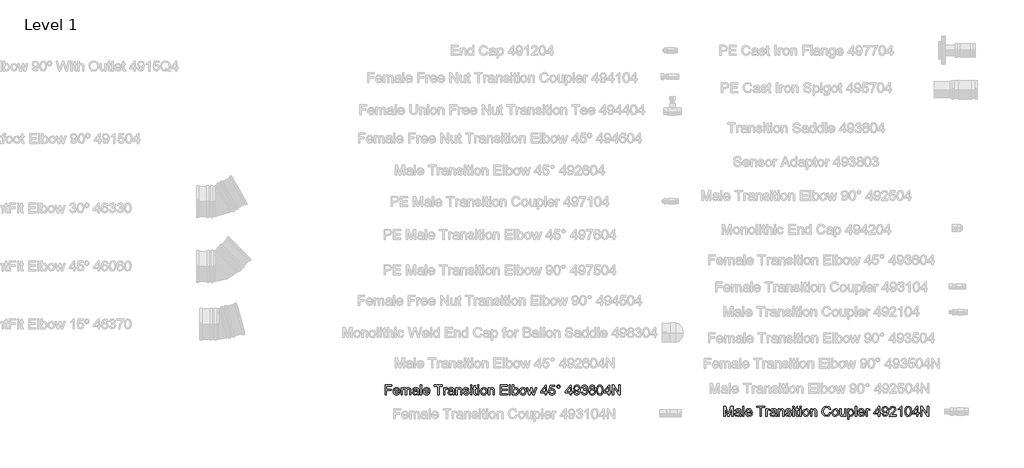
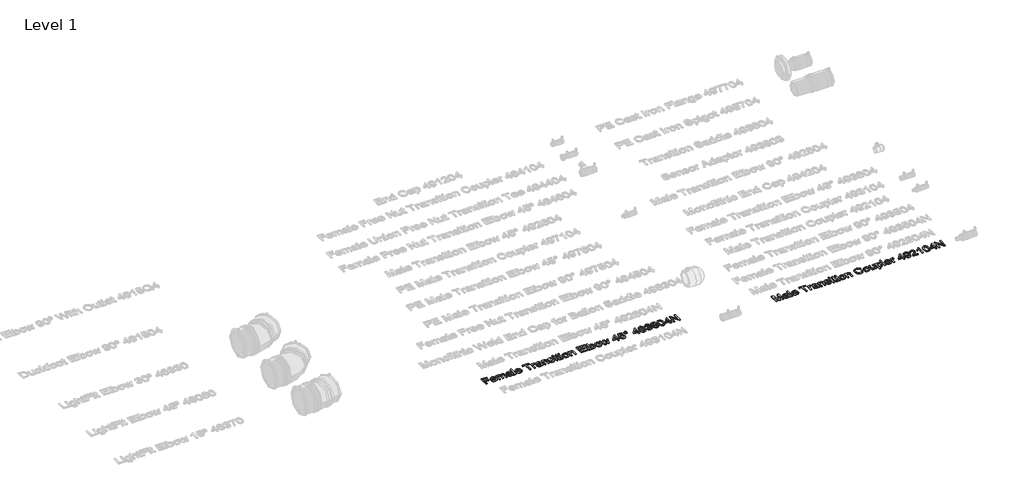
# One storey, part 25 of 41: 2 proxies.
"""IFC4 building model written with IfcOpenShell, lengths in millimetres."""

import ifcopenshell
import ifcopenshell.guid

model = None  # the IFC model being written
_history = None  # IfcOwnerHistory: only IFC2X3 demands one
_inside = {}  # id of a spatial element -> (the spatial element, [elements in it])
_under = {}  # id of a project, library or spatial element -> (it, [spatial elements below it])
_declared = {}  # id of a project -> (the project, [libraries it declares])
_typed = {}  # id of a type object -> (the type object, [elements of that type])
_made_of = {}  # id of a material, layer set ... -> (it, [elements and type objects made of it])


def new_model(schema):
    """Start an empty IFC model of exactly this schema.

    Asked for "IFC4X3", IfcOpenShell would pick the latest addendum, in which some entities
    have other attributes; the version numbers below select the first issue.
    IFC2X3 requires an IfcOwnerHistory on every rooted entity: one is made here for all.
    """
    global model, _history
    if schema == "IFC4X3":
        model = ifcopenshell.file(schema_version=(4, 3, 0, 0))
    else:
        model = ifcopenshell.file(schema=schema)
    _inside.clear()
    _under.clear()
    _declared.clear()
    _typed.clear()
    _made_of.clear()
    _history = None
    if model.schema == "IFC2X3":
        org = make("IfcOrganization", Name="unknown")
        user = make(
            "IfcPersonAndOrganization",
            ThePerson=make("IfcPerson", FamilyName="unknown"),
            TheOrganization=org,
        )
        app = make(
            "IfcApplication",
            ApplicationDeveloper=org,
            Version="unknown",
            ApplicationFullName="unknown",
            ApplicationIdentifier="unknown",
        )
        _history = make(
            "IfcOwnerHistory",
            OwningUser=user,
            OwningApplication=app,
            ChangeAction="ADDED",
            CreationDate=0,
        )
    return model


def make(cls, **values):
    """One entity of the class cls with the attributes given. An attribute that is None is left unset."""
    return model.create_entity(
        cls, **{name: value for name, value in values.items() if value is not None}
    )


def rooted(cls, **values):
    """An entity with a GlobalId (a new one), such as an element, a storey or a relation."""
    return make(cls, GlobalId=ifcopenshell.guid.new(), OwnerHistory=_history, **values)


def si_unit(unit_type, name, prefix=None):
    """IfcSIUnit, for example si_unit("LENGTHUNIT", "METRE", prefix="MILLI")."""
    return make("IfcSIUnit", UnitType=unit_type, Prefix=prefix, Name=name)


def assignment(units):
    """IfcUnitAssignment: the units of a project."""
    return None if units is None else make("IfcUnitAssignment", Units=units)


def point(xyz):
    """IfcCartesianPoint."""
    return None if xyz is None else make("IfcCartesianPoint", Coordinates=xyz)


def direction(xyz):
    """IfcDirection."""
    return None if xyz is None else make("IfcDirection", DirectionRatios=xyz)


def frame(location, z_axis=None, x_axis=None):
    """IfcAxis2Placement3D, a coordinate frame: its origin and axes. An axis left out is left unset."""
    return make(
        "IfcAxis2Placement3D",
        Location=point(location),
        Axis=direction(z_axis),
        RefDirection=direction(x_axis),
    )


def origin():
    """The frame at (0, 0, 0) with its axes left unset."""
    return frame((0.0, 0.0, 0.0))


def origin_with_axes():
    """The frame at (0, 0, 0) with the z axis (0, 0, 1) and the x axis (1, 0, 0) written out."""
    return frame((0.0, 0.0, 0.0), z_axis=(0.0, 0.0, 1.0), x_axis=(1.0, 0.0, 0.0))


def place(relative_to, where):
    """IfcLocalPlacement: puts the frame where relative to a parent placement (None: the world)."""
    return make(
        "IfcLocalPlacement", PlacementRelTo=relative_to, RelativePlacement=where
    )


def context(
    kind, dimensions, precision=None, world=None, true_north=None, identifier=None
):
    """IfcGeometricRepresentationContext, for example the 3D "Model" context."""
    return make(
        "IfcGeometricRepresentationContext",
        ContextIdentifier=identifier,
        ContextType=kind,
        CoordinateSpaceDimension=dimensions,
        Precision=precision,
        WorldCoordinateSystem=world,
        TrueNorth=true_north,
    )


def project(units=None, contexts=None):
    """IfcProject with its units and contexts."""
    return rooted(
        "IfcProject",
        Name="project",
        RepresentationContexts=contexts,
        UnitsInContext=assignment(units),
    )


def spatial(cls, under=None, at=None, **own):
    """A site, building, storey or space (cls), placed at a placement, below another one or the project."""
    s = rooted(cls, ObjectPlacement=at, **own)
    if under is not None:
        _under.setdefault(under.id(), (under, []))[1].append(s)
    return s


def polyline(points):
    """IfcPolyline through the points."""
    return make("IfcPolyline", Points=[point(p) for p in points])


def outline(outer, holes=None, kind="AREA"):
    """IfcArbitraryClosedProfileDef: a profile drawn as a closed curve; with holes, ...WithVoids."""
    if holes is None:
        return make("IfcArbitraryClosedProfileDef", ProfileType=kind, OuterCurve=outer)
    return make(
        "IfcArbitraryProfileDefWithVoids",
        ProfileType=kind,
        OuterCurve=outer,
        InnerCurves=holes,
    )


def extrude(swept, where, along, depth):
    """IfcExtrudedAreaSolid: the profile swept, set in the frame where, extruded along a direction by depth."""
    return make(
        "IfcExtrudedAreaSolid",
        SweptArea=swept,
        Position=where,
        ExtrudedDirection=direction(along),
        Depth=depth,
    )


def shape(context_of_items, identifier, shape_type, items):
    """IfcShapeRepresentation: the items that make up one representation, for example the "Body"."""
    return make(
        "IfcShapeRepresentation",
        ContextOfItems=context_of_items,
        RepresentationIdentifier=identifier,
        RepresentationType=shape_type,
        Items=items,
    )


def made_of(thing, what):
    """Note that an element or type object is made of a material, layer set ...; save() writes the relation."""
    if what is not None:
        _made_of.setdefault(what.id(), (what, []))[1].append(thing)
    return thing


def element(
    cls,
    number,
    at=None,
    inside=None,
    cuts=None,
    type_object=None,
    material=None,
    context=None,
    identifier="Body",
    shape_type=None,
    held_by="IfcProductDefinitionShape",
    body=None,
    shapes=None,
    **own,
):
    """One element of the class cls, such as IfcWall. Its Tag is "e" and its number.

    at: its placement. inside: the storey or other place that contains it. cuts: it is an
    opening in that element (IfcRelVoidsElement). A single representation is given by context,
    identifier, shape_type and body (its items); several are given by shapes. held_by: the class
    of the entity that holds the representations. save() writes the other relations.
    """
    e = rooted(cls, Tag="e%d" % number, ObjectPlacement=at, **own)
    if body is not None:
        shapes = [shape(context, identifier, shape_type, body)]
    if shapes is not None:
        e.Representation = make(held_by, Representations=shapes)
    if inside is not None:
        _inside.setdefault(inside.id(), (inside, []))[1].append(e)
    if cuts is not None:
        rooted(
            "IfcRelVoidsElement", RelatingBuildingElement=cuts, RelatedOpeningElement=e
        )
    if type_object is not None:
        _typed.setdefault(type_object.id(), (type_object, []))[1].append(e)
    return made_of(e, material)


def aggregate(whole, parts):
    """IfcRelAggregates: a whole, such as a stair, and the parts it consists of."""
    return rooted("IfcRelAggregates", RelatingObject=whole, RelatedObjects=parts)


def save(model, path):
    """Write the relations noted so far, then the file.

    IfcRelAggregates (storeys below a building ...), IfcRelContainedInSpatialStructure (elements
    in a storey), IfcRelDefinesByType, IfcRelAssociatesMaterial and IfcRelDeclares: one each for
    every whole, place, type object, material and project.
    """
    for whole, parts in _under.values():
        aggregate(whole, parts)
    for where, things in _inside.values():
        rooted(
            "IfcRelContainedInSpatialStructure",
            RelatedElements=things,
            RelatingStructure=where,
        )
    for kind, things in _typed.values():
        rooted("IfcRelDefinesByType", RelatedObjects=things, RelatingType=kind)
    for what, things in _made_of.values():
        rooted("IfcRelAssociatesMaterial", RelatedObjects=things, RelatingMaterial=what)
    for by, libraries in _declared.values():
        rooted("IfcRelDeclares", RelatingContext=by, RelatedDefinitions=libraries)
    model.write(path)


model = new_model("IFC4")

# Units and contexts
model_context = context("Model", 3, world=origin())
ifc_project = project(units=[si_unit("LENGTHUNIT", "METRE", prefix="MILLI")], contexts=[model_context])

# Site, building, storey
site = spatial("IfcSite", under=ifc_project)
building = spatial("IfcBuilding", under=site)
storey = spatial("IfcBuildingStorey", under=building, Name="Level 1", Elevation=0.0)

# Proxies
placement = place(None, origin())
element("IfcBuildingElementProxy", 1, Name="100 mm Arial", ObjectType="100 mm Arial", at=placement, inside=storey, context=model_context, shape_type="SweptSolid", body=[
    extrude(outline(polyline([(15637.9136045, 3074.7258229), (15637.9136045, 3133.802746), (15677.6059122, 3133.802746), (15677.6059122, 3126.4181306), (15645.2982199, 3126.4181306), (15645.2982199, 3108.879669), (15672.9905276, 3108.879669), (15672.9905276, 3101.4950536), (15645.2982199, 3101.4950536), (15645.2982199, 3074.7258229), (15637.9136045, 3074.7258229)])), origin_with_axes(), (0.0, 0.0, 1.0), 5.0),
    extrude(outline(polyline([(15717.2116814, 3087.6488998), (15724.4520661, 3086.7258229), (15717.6804314, 3077.192169), (15705.0674507, 3073.802746), (15696.4027872, 3075.2648854), (15689.7357199, 3079.6513036), (15685.484518, 3086.677145), (15684.0674507, 3096.0575536), (15685.4989411, 3105.7534671), (15689.7934122, 3113.004669), (15696.3703353, 3117.5263036), (15704.6491814, 3119.0335152), (15712.6702151, 3117.5299094), (15719.0794699, 3113.0190921), (15723.2819939, 3105.7823133), (15724.6828353, 3096.1008229), (15724.6395661, 3094.1104383), (15691.4520661, 3094.1104383), (15695.6996622, 3084.5190921), (15705.2116814, 3081.1873613), (15712.4520661, 3082.7306306), (15717.2116814, 3087.6488998)]), holes=[polyline([(15691.4520661, 3101.4950536), (15717.2982199, 3101.4950536), (15714.3414891, 3108.1873613), (15704.6203353, 3111.6488998), (15695.5265853, 3108.8868806), (15691.4520661, 3101.4950536)])]), origin_with_axes(), (0.0, 0.0, 1.0), 5.0),
    extrude(outline(polyline([(15732.0674507, 3074.7258229), (15732.0674507, 3118.1104383), (15739.4520661, 3118.1104383), (15739.4520661, 3110.9710152), (15744.5289891, 3116.8195729), (15751.7549507, 3119.0335152), (15759.1539891, 3116.7763036), (15763.2212968, 3110.4517844), (15768.9833161, 3116.8880825), (15776.2597584, 3119.0335152), (15785.9160084, 3115.4638036), (15789.2982199, 3104.4662075), (15789.2982199, 3074.7258229), (15781.9136045, 3074.7258229), (15781.9136045, 3101.2931306), (15781.2285084, 3107.458996), (15778.7477391, 3110.4950536), (15774.5289891, 3111.6488998), (15767.2669699, 3108.692169), (15764.375143, 3099.2162075), (15764.375143, 3074.7258229), (15756.9905276, 3074.7258229), (15756.9905276, 3102.115246), (15755.281393, 3109.2690921), (15749.6780276, 3111.6488998), (15744.2116814, 3110.0623613), (15740.5770661, 3105.4181306), (15739.4520661, 3096.6056306), (15739.4520661, 3074.7258229), (15732.0674507, 3074.7258229)])), origin_with_axes(), (0.0, 0.0, 1.0), 5.0),
    extrude(outline(polyline([(15828.0674507, 3080.2642844), (15820.906393, 3075.2594767), (15812.9953353, 3073.802746), (15802.2717776, 3077.3075536), (15798.5289891, 3086.2642844), (15799.9424507, 3092.1056306), (15803.656393, 3096.3460152), (15808.8270661, 3098.7690921), (15815.2164891, 3099.879669), (15828.0241814, 3102.4181306), (15828.0674507, 3104.0623613), (15826.0337968, 3109.5142844), (15817.8703353, 3111.6488998), (15810.3991814, 3110.2282267), (15806.8366814, 3105.1873613), (15799.4520661, 3106.1104383), (15802.6467776, 3113.3219767), (15809.0794699, 3117.5479383), (15818.8222584, 3119.0335152), (15827.7717776, 3117.7210152), (15832.8270661, 3114.4253421), (15835.0914891, 3109.4133229), (15835.4520661, 3102.9517844), (15835.4520661, 3093.7642844), (15835.8270661, 3080.9349575), (15837.2982199, 3074.7258229), (15829.9136045, 3074.7258229), (15828.0674507, 3080.2642844)]), holes=[polyline([(15828.0674507, 3095.0335152), (15816.1539891, 3092.7690921), (15809.8006237, 3091.5719767), (15806.9232199, 3089.6248613), (15805.9136045, 3086.7835152), (15808.1131237, 3082.7883229), (15814.5674507, 3081.1873613), (15822.0386045, 3082.9541883), (15826.8559122, 3087.2306306), (15828.0241814, 3092.942169), (15828.0674507, 3095.0335152)])]), origin_with_axes(), (0.0, 0.0, 1.0), 5.0),
    extrude(outline(polyline([(15845.6059122, 3074.7258229), (15845.6059122, 3133.802746), (15852.9905276, 3133.802746), (15852.9905276, 3074.7258229), (15845.6059122, 3074.7258229)])), origin_with_axes(), (0.0, 0.0, 1.0), 5.0),
    extrude(outline(polyline([(15894.4424507, 3087.6488998), (15901.6828353, 3086.7258229), (15894.9112007, 3077.192169), (15882.2982199, 3073.802746), (15873.6335564, 3075.2648854), (15866.9664891, 3079.6513036), (15862.7152872, 3086.677145), (15861.2982199, 3096.0575536), (15862.7297103, 3105.7534671), (15867.0241814, 3113.004669), (15873.6011045, 3117.5263036), (15881.8799507, 3119.0335152), (15889.9009843, 3117.5299094), (15896.3102391, 3113.0190921), (15900.5127632, 3105.7823133), (15901.9136045, 3096.1008229), (15901.8703353, 3094.1104383), (15868.6828353, 3094.1104383), (15872.9304314, 3084.5190921), (15882.4424507, 3081.1873613), (15889.6828353, 3082.7306306), (15894.4424507, 3087.6488998)]), holes=[polyline([(15868.6828353, 3101.4950536), (15894.5289891, 3101.4950536), (15891.5722584, 3108.1873613), (15881.8511045, 3111.6488998), (15872.7573545, 3108.8868806), (15868.6828353, 3101.4950536)])]), origin_with_axes(), (0.0, 0.0, 1.0), 5.0),
    extrude(outline(polyline([(15948.0674507, 3074.7258229), (15948.0674507, 3126.4181306), (15928.6828353, 3126.4181306), (15928.6828353, 3133.802746), (15974.8366814, 3133.802746), (15974.8366814, 3126.4181306), (15955.4520661, 3126.4181306), (15955.4520661, 3074.7258229), (15948.0674507, 3074.7258229)])), origin_with_axes(), (0.0, 0.0, 1.0), 5.0),
    extrude(outline(polyline([(15982.2212968, 3074.7258229), (15982.2212968, 3118.1104383), (15988.6828353, 3118.1104383), (15988.6828353, 3111.692169), (15993.2693737, 3117.6056306), (15997.8847584, 3119.0335152), (16005.2982199, 3116.754669), (16002.8318737, 3110.1344767), (15997.6395661, 3111.6488998), (15993.4640853, 3110.192169), (15990.8030276, 3106.1537075), (15989.6059122, 3097.5287075), (15989.6059122, 3074.7258229), (15982.2212968, 3074.7258229)])), origin_with_axes(), (0.0, 0.0, 1.0), 5.0),
    extrude(outline(polyline([(16037.6059122, 3080.2642844), (16030.4448545, 3075.2594767), (16022.5337968, 3073.802746), (16011.8102391, 3077.3075536), (16008.0674507, 3086.2642844), (16009.4809122, 3092.1056306), (16013.1948545, 3096.3460152), (16018.3655276, 3098.7690921), (16024.7549507, 3099.879669), (16037.562643, 3102.4181306), (16037.6059122, 3104.0623613), (16035.5722584, 3109.5142844), (16027.4087968, 3111.6488998), (16019.937643, 3110.2282267), (16016.375143, 3105.1873613), (16008.9905276, 3106.1104383), (16012.1852391, 3113.3219767), (16018.6179314, 3117.5479383), (16028.3607199, 3119.0335152), (16037.3102391, 3117.7210152), (16042.3655276, 3114.4253421), (16044.6299507, 3109.4133229), (16044.9905276, 3102.9517844), (16044.9905276, 3093.7642844), (16045.3655276, 3080.9349575), (16046.8366814, 3074.7258229), (16039.4520661, 3074.7258229), (16037.6059122, 3080.2642844)]), holes=[polyline([(16037.6059122, 3095.0335152), (16025.6924507, 3092.7690921), (16019.3390853, 3091.5719767), (16016.4616814, 3089.6248613), (16015.4520661, 3086.7835152), (16017.6515853, 3082.7883229), (16024.1059122, 3081.1873613), (16031.5770661, 3082.9541883), (16036.3943737, 3087.2306306), (16037.562643, 3092.942169), (16037.6059122, 3095.0335152)])]), origin_with_axes(), (0.0, 0.0, 1.0), 5.0),
    extrude(outline(polyline([(16055.1443737, 3074.7258229), (16055.1443737, 3118.1104383), (16062.5289891, 3118.1104383), (16062.5289891, 3112.052746), (16068.1756237, 3117.2883229), (16075.8847584, 3119.0335152), (16082.8583161, 3117.6272652), (16087.6179314, 3113.9349575), (16089.8318737, 3108.504669), (16090.2212968, 3101.365246), (16090.2212968, 3074.7258229), (16082.8366814, 3074.7258229), (16082.8366814, 3100.3700536), (16081.9857199, 3106.9037075), (16078.9785084, 3110.3580344), (16073.9087968, 3111.6488998), (16065.8967776, 3108.7498613), (16062.5289891, 3097.7450536), (16062.5289891, 3074.7258229), (16055.1443737, 3074.7258229)])), origin_with_axes(), (0.0, 0.0, 1.0), 5.0),
    extrude(outline(polyline([(16097.6059122, 3087.6488998), (16104.9905276, 3088.5719767), (16108.4087968, 3083.0912075), (16116.2405276, 3081.1873613), (16123.7693737, 3082.9325536), (16126.2212968, 3087.0287075), (16123.7549507, 3090.3460152), (16116.1539891, 3092.4517844), (16105.0337968, 3096.0647652), (16100.1804314, 3100.2835152), (16098.5289891, 3106.240246), (16099.8559122, 3111.7426498), (16103.4761045, 3115.9469767), (16108.1708161, 3118.1320729), (16114.5241814, 3119.0335152), (16123.5097584, 3117.583996), (16129.2212968, 3113.660919), (16131.7597584, 3107.0335152), (16124.375143, 3106.1104383), (16121.5987007, 3110.1849575), (16115.1011045, 3111.6488998), (16108.0337968, 3110.2498613), (16105.9136045, 3106.990246), (16106.7934122, 3104.8412075), (16109.5482199, 3103.2113998), (16115.9087968, 3101.6392844), (16126.7477391, 3098.1633229), (16131.781393, 3094.2258229), (16133.6059122, 3087.8075536), (16131.4640853, 3080.740246), (16125.2837968, 3075.6128421), (16116.1395661, 3073.802746), (16103.2597584, 3077.2931306), (16097.6059122, 3087.6488998)])), origin_with_axes(), (0.0, 0.0, 1.0), 5.0),
    extrude(outline(polyline([(16141.9136045, 3074.7258229), (16141.9136045, 3118.1104383), (16149.2982199, 3118.1104383), (16149.2982199, 3074.7258229), (16141.9136045, 3074.7258229)])), origin_with_axes(), (0.0, 0.0, 1.0), 5.0),
    extrude(outline(polyline([(16141.9136045, 3126.4181306), (16141.9136045, 3133.802746), (16149.2982199, 3133.802746), (16149.2982199, 3126.4181306), (16141.9136045, 3126.4181306)])), origin_with_axes(), (0.0, 0.0, 1.0), 5.0),
    extrude(outline(polyline([(16176.0674507, 3080.8844767), (16176.9905276, 3074.5094767), (16171.4664891, 3073.802746), (16165.2789891, 3075.0287075), (16162.1924507, 3078.2450536), (16161.2982199, 3086.6248613), (16161.2982199, 3110.7258229), (16155.7597584, 3110.7258229), (16155.7597584, 3118.1104383), (16161.2982199, 3118.1104383), (16161.2982199, 3128.6537075), (16168.6828353, 3132.9950536), (16168.6828353, 3118.1104383), (16176.0674507, 3118.1104383), (16176.0674507, 3110.7258229), (16168.6828353, 3110.7258229), (16168.6828353, 3086.8412075), (16169.0722584, 3083.0335152), (16170.3342776, 3081.6849575), (16172.8511045, 3081.1873613), (16176.0674507, 3080.8844767)])), origin_with_axes(), (0.0, 0.0, 1.0), 5.0),
    extrude(outline(polyline([(16183.4520661, 3074.7258229), (16183.4520661, 3118.1104383), (16190.8366814, 3118.1104383), (16190.8366814, 3074.7258229), (16183.4520661, 3074.7258229)])), origin_with_axes(), (0.0, 0.0, 1.0), 5.0),
    extrude(outline(polyline([(16183.4520661, 3126.4181306), (16183.4520661, 3133.802746), (16190.8366814, 3133.802746), (16190.8366814, 3126.4181306), (16183.4520661, 3126.4181306)])), origin_with_axes(), (0.0, 0.0, 1.0), 5.0),
    extrude(outline(polyline([(16200.0674507, 3096.4181306), (16201.6648064, 3106.8784671), (16206.4568737, 3114.2306306), (16219.4664891, 3119.0335152), (16227.2243016, 3117.5713758), (16233.4208161, 3113.1849575), (16237.4827151, 3106.2204142), (16238.8366814, 3097.0238998), (16236.4424507, 3083.8844767), (16229.468893, 3076.4493806), (16219.4664891, 3073.802746), (16211.6149266, 3075.2594767), (16205.4256237, 3079.629669), (16201.4069939, 3086.740246), (16200.0674507, 3096.4181306)]), holes=[polyline([(16207.4520661, 3096.4325536), (16210.8703353, 3084.9878421), (16219.4664891, 3081.1873613), (16228.0337968, 3085.0094767), (16231.4520661, 3096.6633229), (16228.0121622, 3107.848419), (16219.4664891, 3111.6488998), (16210.8703353, 3107.8628421), (16207.4520661, 3096.4325536)])]), origin_with_axes(), (0.0, 0.0, 1.0), 5.0),
    extrude(outline(polyline([(16247.1443737, 3074.7258229), (16247.1443737, 3118.1104383), (16254.5289891, 3118.1104383), (16254.5289891, 3112.052746), (16260.1756237, 3117.2883229), (16267.8847584, 3119.0335152), (16274.8583161, 3117.6272652), (16279.6179314, 3113.9349575), (16281.8318737, 3108.504669), (16282.2212968, 3101.365246), (16282.2212968, 3074.7258229), (16274.8366814, 3074.7258229), (16274.8366814, 3100.3700536), (16273.9857199, 3106.9037075), (16270.9785084, 3110.3580344), (16265.9087968, 3111.6488998), (16257.8967776, 3108.7498613), (16254.5289891, 3097.7450536), (16254.5289891, 3074.7258229), (16247.1443737, 3074.7258229)])), origin_with_axes(), (0.0, 0.0, 1.0), 5.0),
    extrude(outline(polyline([(16316.375143, 3074.7258229), (16316.375143, 3133.802746), (16358.8366814, 3133.802746), (16358.8366814, 3126.4181306), (16323.7597584, 3126.4181306), (16323.7597584, 3108.879669), (16356.9905276, 3108.879669), (16356.9905276, 3101.4950536), (16323.7597584, 3101.4950536), (16323.7597584, 3082.1104383), (16359.7597584, 3082.1104383), (16359.7597584, 3074.7258229), (16316.375143, 3074.7258229)])), origin_with_axes(), (0.0, 0.0, 1.0), 5.0),
    extrude(outline(polyline([(16369.9136045, 3074.7258229), (16369.9136045, 3133.802746), (16377.2982199, 3133.802746), (16377.2982199, 3074.7258229), (16369.9136045, 3074.7258229)])), origin_with_axes(), (0.0, 0.0, 1.0), 5.0),
    extrude(outline(polyline([(16395.7597584, 3074.7258229), (16388.375143, 3074.7258229), (16388.375143, 3133.802746), (16395.7597584, 3133.802746), (16395.7597584, 3111.8940921), (16400.9304314, 3117.2486594), (16407.3559122, 3119.0335152), (16414.7549507, 3117.4253421), (16420.4953353, 3112.9037075), (16424.0217776, 3105.8724575), (16425.2982199, 3097.067169), (16423.9767055, 3087.208996), (16420.0121622, 3079.8748613), (16414.1942536, 3075.3207748), (16407.312643, 3073.802746), (16400.7465372, 3075.7606786), (16395.7597584, 3081.6344767), (16395.7597584, 3074.7258229)]), holes=[polyline([(16395.7597584, 3096.7210152), (16397.7789891, 3086.3940921), (16406.6780276, 3081.1873613), (16414.5818737, 3085.0238998), (16417.9136045, 3096.4613998), (16414.718893, 3107.942169), (16406.9953353, 3111.6488998), (16399.0914891, 3107.8123613), (16395.7597584, 3096.7210152)])]), origin_with_axes(), (0.0, 0.0, 1.0), 5.0),
    extrude(outline(polyline([(16431.7597584, 3096.4181306), (16433.3571141, 3106.8784671), (16438.1491814, 3114.2306306), (16451.1587968, 3119.0335152), (16458.9166093, 3117.5713758), (16465.1131237, 3113.1849575), (16469.1750228, 3106.2204142), (16470.5289891, 3097.0238998), (16468.1347584, 3083.8844767), (16461.1612007, 3076.4493806), (16451.1587968, 3073.802746), (16443.3072343, 3075.2594767), (16437.1179314, 3079.629669), (16433.0993016, 3086.740246), (16431.7597584, 3096.4181306)]), holes=[polyline([(16439.1443737, 3096.4325536), (16442.562643, 3084.9878421), (16451.1587968, 3081.1873613), (16459.7261045, 3085.0094767), (16463.1443737, 3096.6633229), (16459.7044699, 3107.848419), (16451.1587968, 3111.6488998), (16442.562643, 3107.8628421), (16439.1443737, 3096.4325536)])]), origin_with_axes(), (0.0, 0.0, 1.0), 5.0),
    extrude(outline(polyline([(16486.0337968, 3074.7258229), (16472.8366814, 3118.1104383), (16480.5097584, 3118.1104383), (16487.9953353, 3092.7979383), (16490.2309122, 3083.754669), (16492.062643, 3092.4662075), (16498.0193737, 3118.1104383), (16506.8174507, 3118.1104383), (16512.7453353, 3092.5383229), (16514.375143, 3084.6488998), (16516.7116814, 3092.9710152), (16524.2116814, 3118.1104383), (16531.9136045, 3118.1104383), (16518.6155276, 3074.7258229), (16509.687643, 3074.7258229), (16504.0193737, 3100.1681306), (16502.375143, 3108.1008229), (16495.062643, 3074.7258229), (16486.0337968, 3074.7258229)])), origin_with_axes(), (0.0, 0.0, 1.0), 5.0),
    extrude(outline(polyline([(16582.2212968, 3074.7258229), (16582.2212968, 3088.5719767), (16555.4520661, 3088.5719767), (16555.4520661, 3095.9565921), (16584.0674507, 3132.879669), (16589.6059122, 3132.879669), (16589.6059122, 3095.9565921), (16596.9905276, 3095.9565921), (16596.9905276, 3088.5719767), (16589.6059122, 3088.5719767), (16589.6059122, 3074.7258229), (16582.2212968, 3074.7258229)]), holes=[polyline([(16582.2212968, 3095.9565921), (16582.2212968, 3118.7738998), (16564.5386045, 3095.9565921), (16582.2212968, 3095.9565921)])]), origin_with_axes(), (0.0, 0.0, 1.0), 5.0),
    extrude(outline(polyline([(16603.4520661, 3090.4181306), (16610.8366814, 3091.3412075), (16614.5578353, 3083.7330344), (16622.2741814, 3081.1873613), (16631.5337968, 3084.7282267), (16634.8366814, 3094.1248613), (16631.7429314, 3102.8940921), (16622.3895661, 3106.1104383), (16615.906393, 3104.8267844), (16611.7597584, 3101.4950536), (16604.375143, 3102.4181306), (16610.8366814, 3132.879669), (16639.4520661, 3132.879669), (16639.4520661, 3125.4950536), (16616.8078353, 3125.4950536), (16613.6491814, 3109.2258229), (16624.4520661, 3113.4950536), (16637.0794699, 3108.2017844), (16642.2212968, 3094.5863998), (16637.5914891, 3080.8844767), (16630.9424507, 3075.5731786), (16622.2453353, 3073.802746), (16609.2140853, 3078.3532267), (16603.4520661, 3090.4181306)])), origin_with_axes(), (0.0, 0.0, 1.0), 5.0),
    extrude(outline(polyline([(16650.5289891, 3123.6633229), (16653.781393, 3131.4950536), (16661.5914891, 3134.7258229), (16669.4520661, 3131.4950536), (16672.6828353, 3123.6633229), (16669.4304314, 3115.8243806), (16661.5914891, 3112.5719767), (16653.781393, 3115.802746), (16650.5289891, 3123.6633229)]), holes=[polyline([(16655.1443737, 3123.6488998), (16657.0410084, 3119.0767844), (16661.6203353, 3117.1873613), (16666.1708161, 3119.0767844), (16668.0674507, 3123.6488998), (16666.1708161, 3128.2210152), (16661.6203353, 3130.1104383), (16657.0410084, 3128.2210152), (16655.1443737, 3123.6488998)])]), origin_with_axes(), (0.0, 0.0, 1.0), 5.0),
    extrude(outline(polyline([(16728.9905276, 3074.7258229), (16728.9905276, 3088.5719767), (16702.2212968, 3088.5719767), (16702.2212968, 3095.9565921), (16730.8366814, 3132.879669), (16736.375143, 3132.879669), (16736.375143, 3095.9565921), (16743.7597584, 3095.9565921), (16743.7597584, 3088.5719767), (16736.375143, 3088.5719767), (16736.375143, 3074.7258229), (16728.9905276, 3074.7258229)]), holes=[polyline([(16728.9905276, 3095.9565921), (16728.9905276, 3118.7738998), (16711.3078353, 3095.9565921), (16728.9905276, 3095.9565921)])]), origin_with_axes(), (0.0, 0.0, 1.0), 5.0),
    extrude(outline(polyline([(16751.1443737, 3089.4950536), (16758.5289891, 3090.4181306), (16761.8462968, 3083.3724575), (16768.1347584, 3081.1873613), (16774.1131237, 3082.5936113), (16778.1660084, 3086.3508229), (16780.5818737, 3092.7690921), (16781.6491814, 3101.3363998), (16775.6996622, 3097.1825536), (16767.6011045, 3095.0335152), (16755.2621622, 3100.2835152), (16750.2212968, 3114.115246), (16755.5073545, 3128.3940921), (16768.7549507, 3133.802746), (16779.2765853, 3130.7162075), (16786.5169699, 3121.9181306), (16788.9905276, 3105.3892844), (16786.5241814, 3087.4541883), (16779.1900468, 3077.2931306), (16767.7886045, 3073.802746), (16756.437643, 3077.9205344), (16751.1443737, 3089.4950536)]), holes=[polyline([(16781.6059122, 3114.2883229), (16778.4184122, 3123.1440921), (16769.9520661, 3126.4181306), (16761.0674507, 3122.8916883), (16757.6059122, 3113.754669), (16760.8799507, 3105.5695729), (16769.750143, 3102.4181306), (16778.2669699, 3105.5695729), (16781.6059122, 3114.2883229)])]), origin_with_axes(), (0.0, 0.0, 1.0), 5.0),
    extrude(outline(polyline([(16795.4520661, 3090.4181306), (16802.8366814, 3091.3412075), (16806.9112007, 3083.567169), (16814.5337968, 3081.1873613), (16823.5049507, 3084.4613998), (16826.8366814, 3092.567169), (16823.5337968, 3100.2041883), (16815.1395661, 3103.2258229), (16809.9616814, 3102.4181306), (16810.7837968, 3109.802746), (16820.3462968, 3111.8363998), (16824.0674507, 3118.3556306), (16821.3703353, 3124.1320729), (16814.4184122, 3126.4181306), (16807.3799507, 3124.1104383), (16803.7597584, 3117.1873613), (16796.375143, 3118.1104383), (16802.4184122, 3129.692169), (16814.1587968, 3133.802746), (16823.0650468, 3131.7763036), (16829.2958161, 3126.2378421), (16831.4520661, 3118.7883229), (16829.4039891, 3111.9806306), (16823.3462968, 3107.0912075), (16831.3943737, 3102.0431306), (16834.2212968, 3092.4373613), (16828.5674507, 3079.2258229), (16814.2741814, 3073.802746), (16801.3222584, 3078.4325536), (16795.4520661, 3090.4181306)])), origin_with_axes(), (0.0, 0.0, 1.0), 5.0),
    extrude(outline(polyline([(16878.5289891, 3118.1104383), (16871.1443737, 3117.1873613), (16868.3462968, 3123.3460152), (16860.9472584, 3126.4181306), (16854.2837968, 3124.629669), (16849.2429314, 3117.9157267), (16847.1443737, 3104.754669), (16853.656393, 3110.646496), (16861.7261045, 3112.5719767), (16874.2741814, 3107.3075536), (16879.4520661, 3093.7065921), (16877.0145661, 3083.5166883), (16870.3078353, 3076.3051498), (16860.6299507, 3073.802746), (16852.2519459, 3075.4613998), (16845.5794699, 3080.4373613), (16841.2146862, 3089.2210152), (16839.7597584, 3102.302746), (16841.375143, 3117.0106786), (16846.2212968, 3127.067169), (16852.8378834, 3132.1188517), (16861.4087968, 3133.802746), (16873.0770661, 3129.6344767), (16878.5289891, 3118.1104383)]), holes=[polyline([(16847.1443737, 3093.8219767), (16848.8535084, 3087.4253421), (16853.3967776, 3082.7811113), (16860.0530276, 3081.1873613), (16868.7573545, 3084.490246), (16872.0674507, 3093.4613998), (16868.8006237, 3102.0503421), (16859.750143, 3105.1873613), (16850.8150468, 3102.0503421), (16847.1443737, 3093.8219767)])]), origin_with_axes(), (0.0, 0.0, 1.0), 5.0),
    extrude(outline(polyline([(16885.9136045, 3103.7883229), (16888.0842776, 3120.785919), (16894.531393, 3130.5863998), (16905.2982199, 3133.802746), (16913.9232199, 3131.8988998), (16919.8799507, 3126.410919), (16923.3414891, 3117.6705344), (16924.6828353, 3103.7883229), (16922.5337968, 3086.8628421), (16916.1083161, 3077.0407267), (16905.2982199, 3073.802746), (16897.625143, 3075.208996), (16891.7982199, 3079.427746), (16887.3847584, 3089.4193325), (16885.9136045, 3103.7883229)]), holes=[polyline([(16893.2982199, 3103.802746), (16896.7597584, 3085.4638036), (16905.2982199, 3081.1873613), (16913.8366814, 3085.4782267), (16917.2982199, 3103.802746), (16913.9520661, 3121.9325536), (16905.2116814, 3126.4181306), (16896.875143, 3122.4662075), (16893.2982199, 3103.802746)])]), origin_with_axes(), (0.0, 0.0, 1.0), 5.0),
    extrude(outline(polyline([(16955.1443737, 3074.7258229), (16955.1443737, 3088.5719767), (16928.375143, 3088.5719767), (16928.375143, 3095.9565921), (16956.9905276, 3132.879669), (16962.5289891, 3132.879669), (16962.5289891, 3095.9565921), (16969.9136045, 3095.9565921), (16969.9136045, 3088.5719767), (16962.5289891, 3088.5719767), (16962.5289891, 3074.7258229), (16955.1443737, 3074.7258229)]), holes=[polyline([(16955.1443737, 3095.9565921), (16955.1443737, 3118.7738998), (16937.4616814, 3095.9565921), (16955.1443737, 3095.9565921)])]), origin_with_axes(), (0.0, 0.0, 1.0), 5.0),
    extrude(outline(polyline([(16979.1443737, 3074.7258229), (16979.1443737, 3133.802746), (16987.0482199, 3133.802746), (17017.9136045, 3086.9998613), (17017.9136045, 3133.802746), (17025.2982199, 3133.802746), (17025.2982199, 3074.7258229), (17017.3943737, 3074.7258229), (16986.5289891, 3121.5431306), (16986.5289891, 3074.7258229), (16979.1443737, 3074.7258229)])), origin_with_axes(), (0.0, 0.0, 1.0), 5.0),
])
element("IfcBuildingElementProxy", 2, Name="100 mm Arial", ObjectType="100 mm Arial", at=placement, inside=storey, context=model_context, shape_type="SweptSolid", body=[
    extrude(outline(polyline([(17636.9905276, 2948.8467771), (17636.9905276, 3007.9237001), (17649.6972584, 3007.9237001), (17661.7837968, 2966.2842771), (17664.2212968, 2957.5871617), (17666.8607199, 2967.0054309), (17678.7453353, 3007.9237001), (17691.4520661, 3007.9237001), (17691.4520661, 2948.8467771), (17684.0674507, 2948.8467771), (17684.0674507, 3000.5390848), (17669.2261045, 2948.8467771), (17659.2164891, 2948.8467771), (17644.375143, 3000.5390848), (17644.375143, 2948.8467771), (17636.9905276, 2948.8467771)])), origin_with_axes(), (0.0, 0.0, 1.0), 5.0),
    extrude(outline(polyline([(17731.1443737, 2954.3852386), (17723.9833161, 2949.3804309), (17716.0722584, 2947.9237001), (17705.3487007, 2951.4285078), (17701.6059122, 2960.3852386), (17703.0193737, 2966.2265848), (17706.7333161, 2970.4669694), (17711.9039891, 2972.8900463), (17718.2934122, 2974.0006232), (17731.1011045, 2976.5390848), (17731.1443737, 2978.1833155), (17729.1107199, 2983.6352386), (17720.9472584, 2985.769854), (17713.4761045, 2984.3491809), (17709.9136045, 2979.3083155), (17702.5289891, 2980.2313924), (17705.7237007, 2987.4429309), (17712.156393, 2991.6688924), (17721.8991814, 2993.1544694), (17730.8487007, 2991.8419694), (17735.9039891, 2988.5462963), (17738.1684122, 2983.5342771), (17738.5289891, 2977.0727386), (17738.5289891, 2967.8852386), (17738.9039891, 2955.0559117), (17740.375143, 2948.8467771), (17732.9905276, 2948.8467771), (17731.1443737, 2954.3852386)]), holes=[polyline([(17731.1443737, 2969.1544694), (17719.2309122, 2966.8900463), (17712.8775468, 2965.6929309), (17710.000143, 2963.7458155), (17708.9905276, 2960.9044694), (17711.1900468, 2956.9092771), (17717.6443737, 2955.3083155), (17725.1155276, 2957.0751424), (17729.9328353, 2961.3515848), (17731.1011045, 2967.0631232), (17731.1443737, 2969.1544694)])]), origin_with_axes(), (0.0, 0.0, 1.0), 5.0),
    extrude(outline(polyline([(17748.6828353, 2948.8467771), (17748.6828353, 3007.9237001), (17756.0674507, 3007.9237001), (17756.0674507, 2948.8467771), (17748.6828353, 2948.8467771)])), origin_with_axes(), (0.0, 0.0, 1.0), 5.0),
    extrude(outline(polyline([(17797.5193737, 2961.769854), (17804.7597584, 2960.8467771), (17797.9881237, 2951.3131232), (17785.375143, 2947.9237001), (17776.7104795, 2949.3858396), (17770.0434122, 2953.7722578), (17765.7922103, 2960.7980992), (17764.375143, 2970.1785078), (17765.8066334, 2979.8744213), (17770.1011045, 2987.1256232), (17776.6780276, 2991.6472578), (17784.9568737, 2993.1544694), (17792.9779074, 2991.6508636), (17799.3871622, 2987.1400463), (17803.5896862, 2979.9032674), (17804.9905276, 2970.2217771), (17804.9472584, 2968.2313924), (17771.7597584, 2968.2313924), (17776.0073545, 2958.6400463), (17785.5193737, 2955.3083155), (17792.7597584, 2956.8515848), (17797.5193737, 2961.769854)]), holes=[polyline([(17771.7597584, 2975.6160078), (17797.6059122, 2975.6160078), (17794.6491814, 2982.3083155), (17784.9280276, 2985.769854), (17775.8342776, 2983.0078348), (17771.7597584, 2975.6160078)])]), origin_with_axes(), (0.0, 0.0, 1.0), 5.0),
    extrude(outline(polyline([(17851.1443737, 2948.8467771), (17851.1443737, 3000.5390848), (17831.7597584, 3000.5390848), (17831.7597584, 3007.9237001), (17877.9136045, 3007.9237001), (17877.9136045, 3000.5390848), (17858.5289891, 3000.5390848), (17858.5289891, 2948.8467771), (17851.1443737, 2948.8467771)])), origin_with_axes(), (0.0, 0.0, 1.0), 5.0),
    extrude(outline(polyline([(17885.2982199, 2948.8467771), (17885.2982199, 2992.2313924), (17891.7597584, 2992.2313924), (17891.7597584, 2985.8131232), (17896.3462968, 2991.7265848), (17900.9616814, 2993.1544694), (17908.375143, 2990.8756232), (17905.9087968, 2984.2554309), (17900.7164891, 2985.769854), (17896.5410084, 2984.3131232), (17893.8799507, 2980.2746617), (17892.6828353, 2971.6496617), (17892.6828353, 2948.8467771), (17885.2982199, 2948.8467771)])), origin_with_axes(), (0.0, 0.0, 1.0), 5.0),
    extrude(outline(polyline([(17940.6828353, 2954.3852386), (17933.5217776, 2949.3804309), (17925.6107199, 2947.9237001), (17914.8871622, 2951.4285078), (17911.1443737, 2960.3852386), (17912.5578353, 2966.2265848), (17916.2717776, 2970.4669694), (17921.4424507, 2972.8900463), (17927.8318737, 2974.0006232), (17940.6395661, 2976.5390848), (17940.6828353, 2978.1833155), (17938.6491814, 2983.6352386), (17930.4857199, 2985.769854), (17923.0145661, 2984.3491809), (17919.4520661, 2979.3083155), (17912.0674507, 2980.2313924), (17915.2621622, 2987.4429309), (17921.6948545, 2991.6688924), (17931.437643, 2993.1544694), (17940.3871622, 2991.8419694), (17945.4424507, 2988.5462963), (17947.7068737, 2983.5342771), (17948.0674507, 2977.0727386), (17948.0674507, 2967.8852386), (17948.4424507, 2955.0559117), (17949.9136045, 2948.8467771), (17942.5289891, 2948.8467771), (17940.6828353, 2954.3852386)]), holes=[polyline([(17940.6828353, 2969.1544694), (17928.7693737, 2966.8900463), (17922.4160084, 2965.6929309), (17919.5386045, 2963.7458155), (17918.5289891, 2960.9044694), (17920.7285084, 2956.9092771), (17927.1828353, 2955.3083155), (17934.6539891, 2957.0751424), (17939.4712968, 2961.3515848), (17940.6395661, 2967.0631232), (17940.6828353, 2969.1544694)])]), origin_with_axes(), (0.0, 0.0, 1.0), 5.0),
    extrude(outline(polyline([(17958.2212968, 2948.8467771), (17958.2212968, 2992.2313924), (17965.6059122, 2992.2313924), (17965.6059122, 2986.1737001), (17971.2525468, 2991.4092771), (17978.9616814, 2993.1544694), (17985.9352391, 2991.7482194), (17990.6948545, 2988.0559117), (17992.9087968, 2982.6256232), (17993.2982199, 2975.4862001), (17993.2982199, 2948.8467771), (17985.9136045, 2948.8467771), (17985.9136045, 2974.4910078), (17985.062643, 2981.0246617), (17982.0554314, 2984.4789886), (17976.9857199, 2985.769854), (17968.9737007, 2982.8708155), (17965.6059122, 2971.8660078), (17965.6059122, 2948.8467771), (17958.2212968, 2948.8467771)])), origin_with_axes(), (0.0, 0.0, 1.0), 5.0),
    extrude(outline(polyline([(18000.6828353, 2961.769854), (18008.0674507, 2962.6929309), (18011.4857199, 2957.2121617), (18019.3174507, 2955.3083155), (18026.8462968, 2957.0535078), (18029.2982199, 2961.1496617), (18026.8318737, 2964.4669694), (18019.2309122, 2966.5727386), (18008.1107199, 2970.1857194), (18003.2573545, 2974.4044694), (18001.6059122, 2980.3612001), (18002.9328353, 2985.863604), (18006.5530276, 2990.0679309), (18011.2477391, 2992.2530271), (18017.6011045, 2993.1544694), (18026.5866814, 2991.7049501), (18032.2982199, 2987.7818732), (18034.8366814, 2981.1544694), (18027.4520661, 2980.2313924), (18024.6756237, 2984.3059117), (18018.1780276, 2985.769854), (18011.1107199, 2984.3708155), (18008.9905276, 2981.1112001), (18009.8703353, 2978.9621617), (18012.625143, 2977.332354), (18018.9857199, 2975.7602386), (18029.8246622, 2972.2842771), (18034.8583161, 2968.3467771), (18036.6828353, 2961.9285078), (18034.5410084, 2954.8612001), (18028.3607199, 2949.7337963), (18019.2164891, 2947.9237001), (18006.3366814, 2951.4140848), (18000.6828353, 2961.769854)])), origin_with_axes(), (0.0, 0.0, 1.0), 5.0),
    extrude(outline(polyline([(18044.9905276, 3000.5390848), (18044.9905276, 3007.9237001), (18052.375143, 3007.9237001), (18052.375143, 3000.5390848), (18044.9905276, 3000.5390848)])), origin_with_axes(), (0.0, 0.0, 1.0), 5.0),
    extrude(outline(polyline([(18044.9905276, 2948.8467771), (18044.9905276, 2992.2313924), (18052.375143, 2992.2313924), (18052.375143, 2948.8467771), (18044.9905276, 2948.8467771)])), origin_with_axes(), (0.0, 0.0, 1.0), 5.0),
    extrude(outline(polyline([(18079.1443737, 2955.0054309), (18080.0674507, 2948.6304309), (18074.5434122, 2947.9237001), (18068.3559122, 2949.1496617), (18065.2693737, 2952.3660078), (18064.375143, 2960.7458155), (18064.375143, 2984.8467771), (18058.8366814, 2984.8467771), (18058.8366814, 2992.2313924), (18064.375143, 2992.2313924), (18064.375143, 3002.7746617), (18071.7597584, 3007.1160078), (18071.7597584, 2992.2313924), (18079.1443737, 2992.2313924), (18079.1443737, 2984.8467771), (18071.7597584, 2984.8467771), (18071.7597584, 2960.9621617), (18072.1491814, 2957.1544694), (18073.4112007, 2955.8059117), (18075.9280276, 2955.3083155), (18079.1443737, 2955.0054309)])), origin_with_axes(), (0.0, 0.0, 1.0), 5.0),
    extrude(outline(polyline([(18086.5289891, 3000.5390848), (18086.5289891, 3007.9237001), (18093.9136045, 3007.9237001), (18093.9136045, 3000.5390848), (18086.5289891, 3000.5390848)])), origin_with_axes(), (0.0, 0.0, 1.0), 5.0),
    extrude(outline(polyline([(18086.5289891, 2948.8467771), (18086.5289891, 2992.2313924), (18093.9136045, 2992.2313924), (18093.9136045, 2948.8467771), (18086.5289891, 2948.8467771)])), origin_with_axes(), (0.0, 0.0, 1.0), 5.0),
    extrude(outline(polyline([(18103.1443737, 2970.5390848), (18104.7417295, 2980.9994213), (18109.5337968, 2988.3515848), (18122.5434122, 2993.1544694), (18130.3012247, 2991.6923299), (18136.4977391, 2987.3059117), (18140.5596382, 2980.3413684), (18141.9136045, 2971.144854), (18139.5193737, 2958.0054309), (18132.5458161, 2950.5703348), (18122.5434122, 2947.9237001), (18114.6918497, 2949.3804309), (18108.5025468, 2953.7506232), (18104.483917, 2960.8612001), (18103.1443737, 2970.5390848)]), holes=[polyline([(18110.5289891, 2970.5535078), (18113.9472584, 2959.1087963), (18122.5434122, 2955.3083155), (18131.1107199, 2959.1304309), (18134.5289891, 2970.7842771), (18131.0890853, 2981.9693732), (18122.5434122, 2985.769854), (18113.9472584, 2981.9837963), (18110.5289891, 2970.5535078)])]), origin_with_axes(), (0.0, 0.0, 1.0), 5.0),
    extrude(outline(polyline([(18150.2212968, 2948.8467771), (18150.2212968, 2992.2313924), (18157.6059122, 2992.2313924), (18157.6059122, 2986.1737001), (18163.2525468, 2991.4092771), (18170.9616814, 2993.1544694), (18177.9352391, 2991.7482194), (18182.6948545, 2988.0559117), (18184.9087968, 2982.6256232), (18185.2982199, 2975.4862001), (18185.2982199, 2948.8467771), (18177.9136045, 2948.8467771), (18177.9136045, 2974.4910078), (18177.062643, 2981.0246617), (18174.0554314, 2984.4789886), (18168.9857199, 2985.769854), (18160.9737007, 2982.8708155), (18157.6059122, 2971.8660078), (18157.6059122, 2948.8467771), (18150.2212968, 2948.8467771)])), origin_with_axes(), (0.0, 0.0, 1.0), 5.0),
    extrude(outline(polyline([(18260.9905276, 2969.8467771), (18268.375143, 2967.9429309), (18259.6203353, 2953.051104), (18244.1587968, 2947.9237001), (18228.7910084, 2951.8035078), (18219.7765853, 2963.0390848), (18216.6828353, 2978.832354), (18220.1804314, 2994.8852386), (18230.125143, 3005.2914886), (18244.3174507, 3008.8467771), (18259.1083161, 3004.2458155), (18267.4520661, 2991.2938924), (18260.0674507, 2989.5342771), (18254.0097584, 2998.613604), (18244.0289891, 3001.4621617), (18232.4761045, 2998.3035078), (18225.9496622, 2989.8227386), (18224.0674507, 2978.8467771), (18226.2958161, 2966.1256232), (18233.2333161, 2957.9982194), (18243.4232199, 2955.3083155), (18254.7237007, 2958.9717771), (18260.9905276, 2969.8467771)])), origin_with_axes(), (0.0, 0.0, 1.0), 5.0),
    extrude(outline(polyline([(18275.7597584, 2970.5390848), (18277.3571141, 2980.9994213), (18282.1491814, 2988.3515848), (18295.1587968, 2993.1544694), (18302.9166093, 2991.6923299), (18309.1131237, 2987.3059117), (18313.1750228, 2980.3413684), (18314.5289891, 2971.144854), (18312.1347584, 2958.0054309), (18305.1612007, 2950.5703348), (18295.1587968, 2947.9237001), (18287.3072343, 2949.3804309), (18281.1179314, 2953.7506232), (18277.0993016, 2960.8612001), (18275.7597584, 2970.5390848)]), holes=[polyline([(18283.1443737, 2970.5535078), (18286.562643, 2959.1087963), (18295.1587968, 2955.3083155), (18303.7261045, 2959.1304309), (18307.1443737, 2970.7842771), (18303.7044699, 2981.9693732), (18295.1587968, 2985.769854), (18286.562643, 2981.9837963), (18283.1443737, 2970.5535078)])]), origin_with_axes(), (0.0, 0.0, 1.0), 5.0),
    extrude(outline(polyline([(18350.5289891, 2948.8467771), (18350.5289891, 2956.3035078), (18344.7453353, 2950.0186521), (18337.2020661, 2947.9237001), (18330.2573545, 2949.394854), (18325.468893, 2953.0871617), (18323.2693737, 2958.5246617), (18322.8366814, 2965.3900463), (18322.8366814, 2992.2313924), (18330.2212968, 2992.2313924), (18330.2212968, 2968.8660078), (18330.6684122, 2961.3371617), (18333.5890853, 2956.9164886), (18339.0914891, 2955.3083155), (18345.2573545, 2956.9525463), (18349.3318737, 2961.4309117), (18350.5289891, 2969.6592771), (18350.5289891, 2992.2313924), (18357.9136045, 2992.2313924), (18357.9136045, 2948.8467771), (18350.5289891, 2948.8467771)])), origin_with_axes(), (0.0, 0.0, 1.0), 5.0),
    extrude(outline(polyline([(18368.0674507, 2932.2313924), (18368.0674507, 2992.2313924), (18375.4520661, 2992.2313924), (18375.4520661, 2984.9910078), (18380.5578353, 2991.113604), (18387.4520661, 2993.1544694), (18396.812643, 2990.2987001), (18402.9280276, 2982.2506232), (18404.9905276, 2970.8708155), (18402.6612007, 2958.9068732), (18395.8967776, 2950.7578348), (18386.5578353, 2947.9237001), (18380.1323545, 2949.8203348), (18375.4520661, 2954.6160078), (18375.4520661, 2932.2313924), (18368.0674507, 2932.2313924)]), holes=[polyline([(18375.4520661, 2970.1929309), (18378.6467776, 2958.9429309), (18386.3991814, 2955.3083155), (18394.3102391, 2959.0727386), (18397.6059122, 2970.7410078), (18394.3895661, 2982.019854), (18386.7020661, 2985.769854), (18378.8631237, 2981.7818732), (18375.4520661, 2970.1929309)])]), origin_with_axes(), (0.0, 0.0, 1.0), 5.0),
    extrude(outline(polyline([(18413.2982199, 2948.8467771), (18413.2982199, 3007.9237001), (18420.6828353, 3007.9237001), (18420.6828353, 2948.8467771), (18413.2982199, 2948.8467771)])), origin_with_axes(), (0.0, 0.0, 1.0), 5.0),
    extrude(outline(polyline([(18462.1347584, 2961.769854), (18469.375143, 2960.8467771), (18462.6035084, 2951.3131232), (18449.9905276, 2947.9237001), (18441.3258641, 2949.3858396), (18434.6587968, 2953.7722578), (18430.4075949, 2960.7980992), (18428.9905276, 2970.1785078), (18430.422018, 2979.8744213), (18434.7164891, 2987.1256232), (18441.2934122, 2991.6472578), (18449.5722584, 2993.1544694), (18457.593292, 2991.6508636), (18464.0025468, 2987.1400463), (18468.2050709, 2979.9032674), (18469.6059122, 2970.2217771), (18469.562643, 2968.2313924), (18436.375143, 2968.2313924), (18440.6227391, 2958.6400463), (18450.1347584, 2955.3083155), (18457.375143, 2956.8515848), (18462.1347584, 2961.769854)]), holes=[polyline([(18436.375143, 2975.6160078), (18462.2212968, 2975.6160078), (18459.2645661, 2982.3083155), (18449.5434122, 2985.769854), (18440.4496622, 2983.0078348), (18436.375143, 2975.6160078)])]), origin_with_axes(), (0.0, 0.0, 1.0), 5.0),
    extrude(outline(polyline([(18476.9905276, 2948.8467771), (18476.9905276, 2992.2313924), (18483.4520661, 2992.2313924), (18483.4520661, 2985.8131232), (18488.0386045, 2991.7265848), (18492.6539891, 2993.1544694), (18500.0674507, 2990.8756232), (18497.6011045, 2984.2554309), (18492.4087968, 2985.769854), (18488.2333161, 2984.3131232), (18485.5722584, 2980.2746617), (18484.375143, 2971.6496617), (18484.375143, 2948.8467771), (18476.9905276, 2948.8467771)])), origin_with_axes(), (0.0, 0.0, 1.0), 5.0),
    extrude(outline(polyline([(18549.9136045, 2948.8467771), (18549.9136045, 2962.6929309), (18523.1443737, 2962.6929309), (18523.1443737, 2970.0775463), (18551.7597584, 3007.0006232), (18557.2982199, 3007.0006232), (18557.2982199, 2970.0775463), (18564.6828353, 2970.0775463), (18564.6828353, 2962.6929309), (18557.2982199, 2962.6929309), (18557.2982199, 2948.8467771), (18549.9136045, 2948.8467771)]), holes=[polyline([(18549.9136045, 2970.0775463), (18549.9136045, 2992.894854), (18532.2309122, 2970.0775463), (18549.9136045, 2970.0775463)])]), origin_with_axes(), (0.0, 0.0, 1.0), 5.0),
    extrude(outline(polyline([(18572.0674507, 2963.6160078), (18579.4520661, 2964.5390848), (18582.7693737, 2957.4934117), (18589.0578353, 2955.3083155), (18595.0362007, 2956.7145655), (18599.0890853, 2960.4717771), (18601.5049507, 2966.8900463), (18602.5722584, 2975.457354), (18596.6227391, 2971.3035078), (18588.5241814, 2969.1544694), (18576.1852391, 2974.4044694), (18571.1443737, 2988.2362001), (18576.4304314, 3002.5150463), (18589.6780276, 3007.9237001), (18600.1996622, 3004.8371617), (18607.4400468, 2996.0390848), (18609.9136045, 2979.5102386), (18607.4472584, 2961.5751424), (18600.1131237, 2951.4140848), (18588.7116814, 2947.9237001), (18577.3607199, 2952.0414886), (18572.0674507, 2963.6160078)]), holes=[polyline([(18602.5289891, 2988.4092771), (18599.3414891, 2997.2650463), (18590.875143, 3000.5390848), (18581.9905276, 2997.0126424), (18578.5289891, 2987.8756232), (18581.8030276, 2979.6905271), (18590.6732199, 2976.5390848), (18599.1900468, 2979.6905271), (18602.5289891, 2988.4092771)])]), origin_with_axes(), (0.0, 0.0, 1.0), 5.0),
    extrude(outline(polyline([(18654.2212968, 2956.2313924), (18654.2212968, 2948.8467771), (18615.4520661, 2948.8467771), (18616.2453353, 2953.9381232), (18620.7309122, 2961.7770655), (18629.9761045, 2970.3371617), (18642.7261045, 2982.6400463), (18645.9136045, 2991.0054309), (18642.906393, 2997.7770655), (18635.0530276, 3000.5390848), (18626.8679314, 2997.8419694), (18623.7597584, 2990.3852386), (18616.375143, 2991.3083155), (18622.0362007, 3003.6688924), (18635.2116814, 3007.9237001), (18648.4304314, 3003.1929309), (18653.2982199, 2991.4525463), (18651.9857199, 2984.4501424), (18647.6227391, 2977.2097578), (18637.0434122, 2967.0919694), (18628.5482199, 2959.988604), (18625.2164891, 2956.2313924), (18654.2212968, 2956.2313924)])), origin_with_axes(), (0.0, 0.0, 1.0), 5.0),
    extrude(outline(polyline([(18689.2982199, 2948.8467771), (18681.9136045, 2948.8467771), (18681.9136045, 2994.8852386), (18674.9184122, 2989.9020655), (18667.1443737, 2986.1737001), (18667.1443737, 2993.1544694), (18677.968893, 3000.0631232), (18684.5386045, 3007.9237001), (18689.2982199, 3007.9237001), (18689.2982199, 2948.8467771)])), origin_with_axes(), (0.0, 0.0, 1.0), 5.0),
    extrude(outline(polyline([(18706.8366814, 2977.9092771), (18709.0073545, 2994.9068732), (18715.4544699, 3004.707354), (18726.2212968, 3007.9237001), (18734.8462968, 3006.019854), (18740.8030276, 3000.5318732), (18744.2645661, 2991.7914886), (18745.6059122, 2977.9092771), (18743.4568737, 2960.9837963), (18737.031393, 2951.1616809), (18726.2212968, 2947.9237001), (18718.5482199, 2949.3299501), (18712.7212968, 2953.5487001), (18708.3078353, 2963.5402867), (18706.8366814, 2977.9092771)]), holes=[polyline([(18714.2212968, 2977.9237001), (18717.6828353, 2959.5847578), (18726.2212968, 2955.3083155), (18734.7597584, 2959.5991809), (18738.2212968, 2977.9237001), (18734.875143, 2996.0535078), (18726.1347584, 3000.5390848), (18717.7982199, 2996.5871617), (18714.2212968, 2977.9237001)])]), origin_with_axes(), (0.0, 0.0, 1.0), 5.0),
    extrude(outline(polyline([(18776.0674507, 2948.8467771), (18776.0674507, 2962.6929309), (18749.2982199, 2962.6929309), (18749.2982199, 2970.0775463), (18777.9136045, 3007.0006232), (18783.4520661, 3007.0006232), (18783.4520661, 2970.0775463), (18790.8366814, 2970.0775463), (18790.8366814, 2962.6929309), (18783.4520661, 2962.6929309), (18783.4520661, 2948.8467771), (18776.0674507, 2948.8467771)]), holes=[polyline([(18776.0674507, 2970.0775463), (18776.0674507, 2992.894854), (18758.3847584, 2970.0775463), (18776.0674507, 2970.0775463)])]), origin_with_axes(), (0.0, 0.0, 1.0), 5.0),
    extrude(outline(polyline([(18800.0674507, 2948.8467771), (18800.0674507, 3007.9237001), (18807.9712968, 3007.9237001), (18838.8366814, 2961.1208155), (18838.8366814, 3007.9237001), (18846.2212968, 3007.9237001), (18846.2212968, 2948.8467771), (18838.3174507, 2948.8467771), (18807.4520661, 2995.6640848), (18807.4520661, 2948.8467771), (18800.0674507, 2948.8467771)])), origin_with_axes(), (0.0, 0.0, 1.0), 5.0),
])

save(model, "model.ifc")
